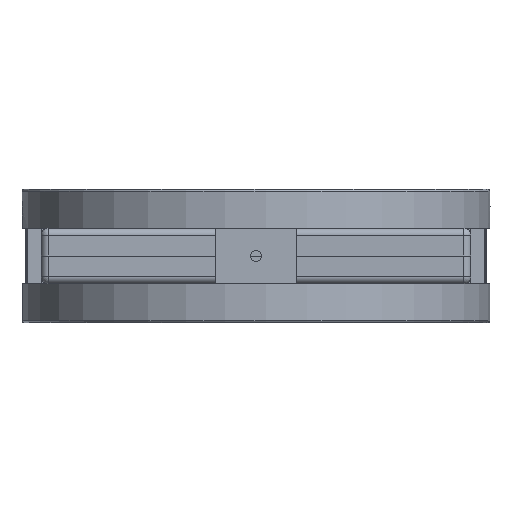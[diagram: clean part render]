
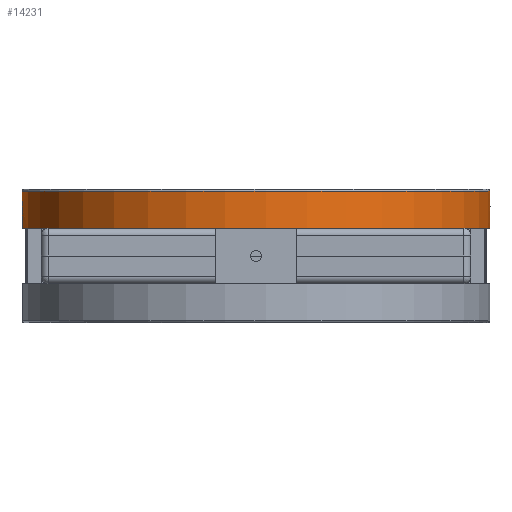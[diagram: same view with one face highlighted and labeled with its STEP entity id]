
A CAD part, front view. The second image highlights one B-rep face of the part: STEP entity #14231.
In plain terms, the highlighted cylindrical face has radius 175 mm (diameter 350 mm), a full revolution.
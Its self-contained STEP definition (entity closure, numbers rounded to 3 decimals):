
#5332=ELLIPSE('',#30504,350.,175.);
#5333=ELLIPSE('',#30506,350.,175.);
#5334=ELLIPSE('',#30507,350.,175.);
#5335=ELLIPSE('',#30509,350.,175.);
#12559=CYLINDRICAL_SURFACE('',#30510,175.);
#13169=FACE_BOUND('',#17276,.T.);
#13170=FACE_BOUND('',#17277,.T.);
#13171=FACE_BOUND('',#17278,.T.);
#13172=FACE_BOUND('',#17279,.T.);
#14231=ADVANCED_FACE('',(#13169,#13170,#13171,#13172),#12559,.T.);
#17276=EDGE_LOOP('',(#20703));
#17277=EDGE_LOOP('',(#20704));
#17278=EDGE_LOOP('',(#20705,#20706,#20707));
#17279=EDGE_LOOP('',(#20708,#20709,#20710));
#20703=ORIENTED_EDGE('',*,*,#27167,.F.);
#20704=ORIENTED_EDGE('',*,*,#27168,.T.);
#20705=ORIENTED_EDGE('',*,*,#27169,.F.);
#20706=ORIENTED_EDGE('',*,*,#27170,.F.);
#20707=ORIENTED_EDGE('',*,*,#27171,.F.);
#20708=ORIENTED_EDGE('',*,*,#27172,.F.);
#20709=ORIENTED_EDGE('',*,*,#27173,.F.);
#20710=ORIENTED_EDGE('',*,*,#27174,.F.);
#24756=VERTEX_POINT('',#41554);
#24757=VERTEX_POINT('',#41556);
#24758=VERTEX_POINT('',#41558);
#24759=VERTEX_POINT('',#41559);
#24760=VERTEX_POINT('',#41561);
#24761=VERTEX_POINT('',#41564);
#24762=VERTEX_POINT('',#41565);
#24763=VERTEX_POINT('',#41567);
#27167=EDGE_CURVE('',#24756,#24756,#29152,.T.);
#27168=EDGE_CURVE('',#24757,#24757,#29153,.T.);
#27169=EDGE_CURVE('',#24758,#24759,#5332,.T.);
#27170=EDGE_CURVE('',#24760,#24758,#29154,.T.);
#27171=EDGE_CURVE('',#24759,#24760,#5333,.T.);
#27172=EDGE_CURVE('',#24761,#24762,#5334,.T.);
#27173=EDGE_CURVE('',#24763,#24761,#29155,.T.);
#27174=EDGE_CURVE('',#24762,#24763,#5335,.T.);
#29152=CIRCLE('',#30502,175.);
#29153=CIRCLE('',#30503,175.);
#29154=CIRCLE('',#30505,175.);
#29155=CIRCLE('',#30508,175.);
#30502=AXIS2_PLACEMENT_3D('',#41553,#34200,#34201);
#30503=AXIS2_PLACEMENT_3D('',#41555,#34202,#34203);
#30504=AXIS2_PLACEMENT_3D('',#41557,#34204,#34205);
#30505=AXIS2_PLACEMENT_3D('',#41560,#34206,#34207);
#30506=AXIS2_PLACEMENT_3D('',#41562,#34208,#34209);
#30507=AXIS2_PLACEMENT_3D('',#41563,#34210,#34211);
#30508=AXIS2_PLACEMENT_3D('',#41566,#34212,#34213);
#30509=AXIS2_PLACEMENT_3D('',#41568,#34214,#34215);
#30510=AXIS2_PLACEMENT_3D('',#41569,#34216,#34217);
#34200=DIRECTION('',(-1.,0.,0.));
#34201=DIRECTION('',(0.,-0.383,0.924));
#34202=DIRECTION('',(-1.,0.,0.));
#34203=DIRECTION('',(0.,-0.383,0.924));
#34204=DIRECTION('',(0.5,0.,-0.866));
#34205=DIRECTION('',(-0.866,0.,-0.5));
#34206=DIRECTION('',(-1.,0.,0.));
#34207=DIRECTION('',(0.,0.,1.));
#34208=DIRECTION('',(0.5,0.,0.866));
#34209=DIRECTION('',(-0.866,0.,0.5));
#34210=DIRECTION('',(0.5,0.,0.866));
#34211=DIRECTION('',(-0.866,0.,0.5));
#34212=DIRECTION('',(-1.,0.,0.));
#34213=DIRECTION('',(0.,0.,1.));
#34214=DIRECTION('',(0.5,0.,-0.866));
#34215=DIRECTION('',(-0.866,0.,-0.5));
#34216=DIRECTION('',(-1.,0.,0.));
#34217=DIRECTION('',(0.,-0.383,0.924));
#41553=CARTESIAN_POINT('',(20.6,0.,526.));
#41554=CARTESIAN_POINT('',(20.6,-66.97,687.679));
#41555=CARTESIAN_POINT('',(48.4,0.,526.));
#41556=CARTESIAN_POINT('',(48.4,-66.97,687.679));
#41557=CARTESIAN_POINT('',(36.9,0.,526.));
#41558=CARTESIAN_POINT('',(40.9,-174.985,528.309));
#41559=CARTESIAN_POINT('',(36.9,-175.,526.));
#41560=CARTESIAN_POINT('',(40.9,0.,526.));
#41561=CARTESIAN_POINT('',(40.9,-174.985,523.691));
#41562=CARTESIAN_POINT('',(36.9,0.,526.));
#41563=CARTESIAN_POINT('',(36.9,0.,526.));
#41564=CARTESIAN_POINT('',(40.9,174.985,523.691));
#41565=CARTESIAN_POINT('',(36.9,175.,526.));
#41566=CARTESIAN_POINT('',(40.9,0.,526.));
#41567=CARTESIAN_POINT('',(40.9,174.985,528.309));
#41568=CARTESIAN_POINT('',(36.9,0.,526.));
#41569=CARTESIAN_POINT('',(16.8,0.,526.));
